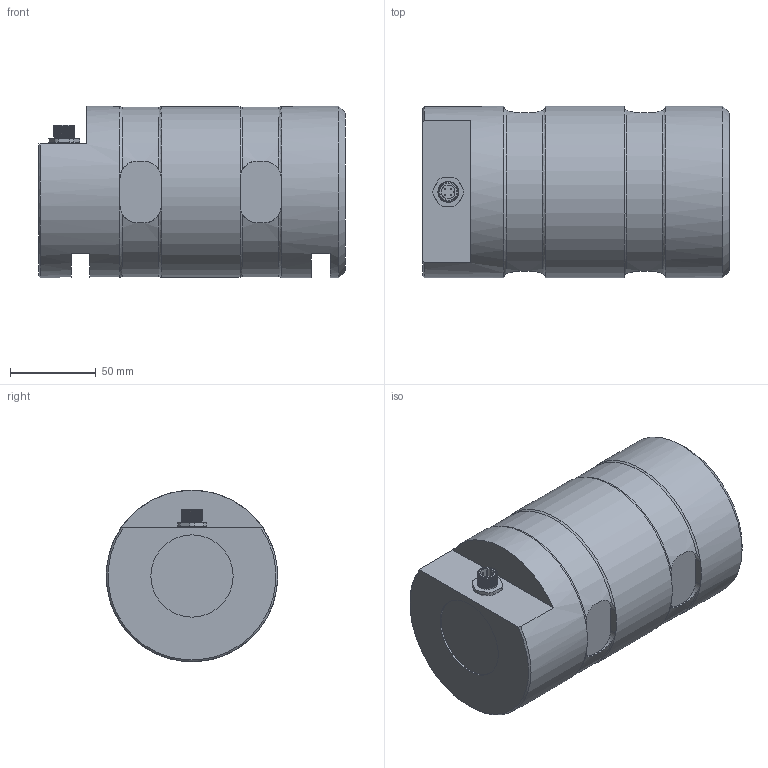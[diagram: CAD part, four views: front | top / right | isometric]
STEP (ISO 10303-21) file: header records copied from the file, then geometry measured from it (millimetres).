
FILE_DESCRIPTION(/* description */ ('Alibre Inc.'),/* implementation_level */ '2;1');
FILE_NAME(/* name */ 'export0',/* time_stamp */ '2013-11-07T16:25:01+01:00',/* author */ (''),/* organization */ (''),/* preprocessor_version */ 'ST-DEVELOPER v14',/* originating_system */ 'Alibre',/* authorisation */ '');
FILE_SCHEMA (('CONFIG_CONTROL_DESIGN'));
Length unit declared in the file: centimetre
Products named in the file (6): ID_1; ID_2; ID_3
Bounding box: 179 x 100 x 100 mm (x, y, z)
Volume: 1332063.9 mm3; surface area: 78690.3 mm2
Topology: 8 solids, 8 shells, 170 faces, 382 edges, 235 vertices
Faces by surface type: plane 73, cylinder 59, bspline 23, torus 9, cone 6
Full cylindrical faces by diameter (mm): 0.5 x8, 8 x2, 10 x4, 11.5 x1, 13 x1, 14.376 x1, 48 x1, 100 x3
Entity records: 16159 total; most frequent: CARTESIAN_POINT 12504, ORIENTED_EDGE 692, DIRECTION 459, EDGE_CURVE 341, VERTEX_POINT 223, FACE_BOUND 213, EDGE_LOOP 212, AXIS2_PLACEMENT_3D 205
